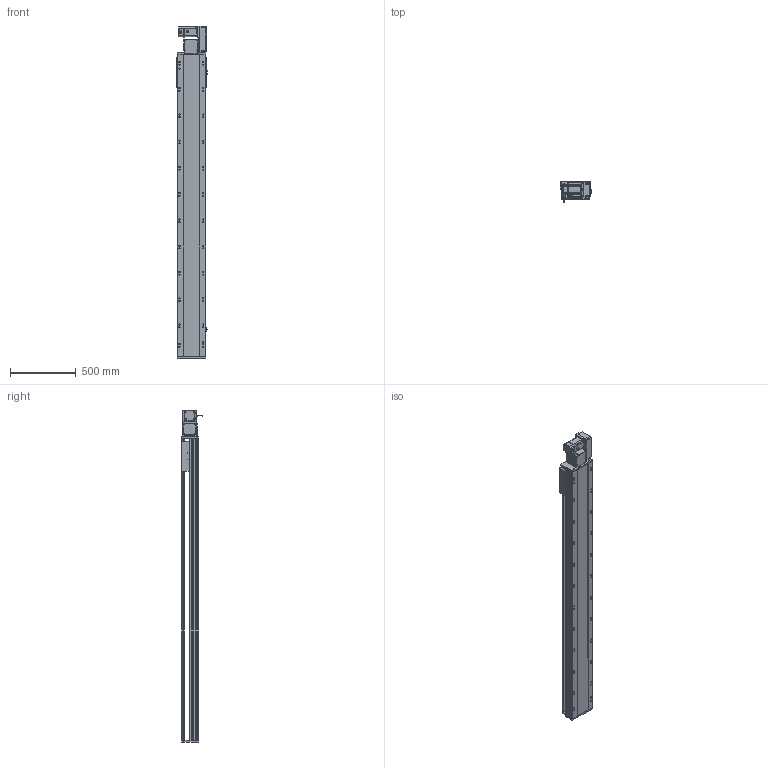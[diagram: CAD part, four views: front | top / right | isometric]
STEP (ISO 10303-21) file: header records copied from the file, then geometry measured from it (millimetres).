
FILE_DESCRIPTION (( 'STEP AP214' ), '1' );
FILE_NAME ('RTB22S-XX-1950-R-M75-C4.STEP', '2025-12-12T07:24:53', ( '' ), ( '' ), 'SwSTEP 2.0', 'SolidWorks 2018', '' );
FILE_SCHEMA (( 'AUTOMOTIVE_DESIGN' ));
Length unit declared in the file: millimetre
Products named in the file (14): RTB22S-XX-1950-R-M75-C4; RTB22S-GY-014--々湍釱^RTB22S-R-々湍釱蚾饜_RTB22S-XX-XX-R-M75-C4; RTB22S-GY-007奻裔^RTB22S-XX-XX-R-M75-C4; OMRON EE-SX672 传感器^RTB22S-XX-XX-R-M75-C4; RTB22S-GY-018P^RTB22S-R-々湍釱蚾饜_RTB22S-XX-XX-R-M75-C4; 750W萇儂^RTB22S-XX-XX-R-M75-C4; RTB22S-L-011菁釱^RTB22S-XX-XX-R-M75-C4; RTB22S-GY-017P^RTB22S-R-々湍釱蚾饜_RTB22S-XX-XX-R-M75-C4; RTB22S-GY-008-M75--萇儂啣^RTB22S-R-々湍釱蚾饜_RTB22S-XX-XX-R-M75-C4; RTB22S-L-004賑釱^RTB22S-XX-XX-R-M75-C4; RTB22S-R-々湍釱蚾饜^RTB22S-XX-XX-R-M75-C4; RTB22S-GY-001耜裔^RTB22S-XX-XX-R-M75-C4; RTB22S-GY-005P^RTB22S-R-々湍釱蚾饜_RTB22S-XX-XX-R-M75-C4; RTH22-GY-013外置感应片^RTB22S-XX-XX-R-M75-C4
Assembly tree (16 placements, depth 3):
  RTB22S-XX-1950-R-M75-C4
    RTB22S-L-011菁釱^RTB22S-XX-XX-R-M75-C4
    RTB22S-GY-001耜裔^RTB22S-XX-XX-R-M75-C4
    750W萇儂^RTB22S-XX-XX-R-M75-C4
    RTB22S-GY-007奻裔^RTB22S-XX-XX-R-M75-C4
    RTB22S-L-004賑釱^RTB22S-XX-XX-R-M75-C4
    RTH22-GY-013外置感应片^RTB22S-XX-XX-R-M75-C4
    OMRON EE-SX672 传感器^RTB22S-XX-XX-R-M75-C4  x3
    RTB22S-R-々湍釱蚾饜^RTB22S-XX-XX-R-M75-C4
      RTB22S-GY-014--々湍釱^RTB22S-R-々湍釱蚾饜_RTB22S-XX-XX-R-M75-C4
      RTB22S-GY-017P^RTB22S-R-々湍釱蚾饜_RTB22S-XX-XX-R-M75-C4  x2
      RTB22S-GY-005P^RTB22S-R-々湍釱蚾饜_RTB22S-XX-XX-R-M75-C4
      RTB22S-GY-008-M75--萇儂啣^RTB22S-R-々湍釱蚾饜_RTB22S-XX-XX-R-M75-C4
      RTB22S-GY-018P^RTB22S-R-々湍釱蚾饜_RTB22S-XX-XX-R-M75-C4
Bounding box: 238.5 x 162.7 x 2529 mm (x, y, z)
Volume: 32357854.4 mm3; surface area: 3322706.8 mm2
Topology: 15 solids, 15 shells, 2055 faces, 5586 edges, 3572 vertices
Faces by surface type: plane 923, cylinder 670, bspline 296, cone 154, sphere 8, torus 4
Entity records: 55400 total; most frequent: CARTESIAN_POINT 15764, ORIENTED_EDGE 7928, DIRECTION 7698, EDGE_CURVE 3964, AXIS2_PLACEMENT_3D 2742, VERTEX_POINT 2576, VECTOR 2214, LINE 2214
